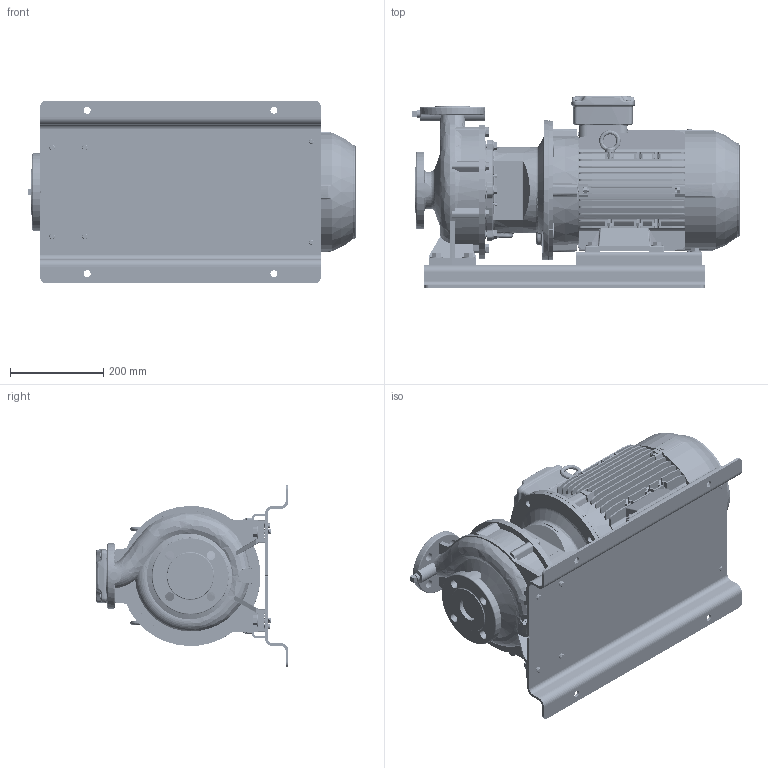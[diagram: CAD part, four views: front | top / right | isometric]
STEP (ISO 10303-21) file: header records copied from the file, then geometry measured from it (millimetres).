
FILE_DESCRIPTION (( 'STEP AP214' ), '1' );
FILE_NAME ('GSD2 32-200_5.5 & 7.5_(132S)_W21_BP.STEP', '2024-03-20T01:22:30', ( '' ), ( '' ), 'SwSTEP 2.0', 'SolidWorks 2019', '' );
FILE_SCHEMA (( 'AUTOMOTIVE_DESIGN' ));
Length unit declared in the file: millimetre
Products named in the file (18): Parametric bolt_SFT-A253B; Parametric bolt and washer_SFT-A299B; Parametric bolt and washer_SFT-A253B; 32-200-132S; Parametric Flat Washer_M10; N3S3 GSDA-336 F1-1832908-00; Parametric Flat Washer_M12; GSD2  32-200_5.5 & 7.5_(132S)_W21_BP; Parametric bolt_SFT-A299B; Parametric bolt_SFT-A257B; 132S ALIE3_W21T_B35; 140_178 x 28 - 271472025
Assembly tree (33 placements, depth 3):
  GSD2  32-200_5.5 & 7.5_(132S)_W21_BP
    32-200-132S
    N3S3 GSDA-336 F1-1832908-00
    140_178 x 28 - 271472025  x2
    Parametric bolt and washer_SFT-A299B
      Parametric bolt_SFT-A299B
      Parametric Flat Washer_M12
    Parametric bolt and washer_SFT-A299B
      Parametric bolt_SFT-A299B
      Parametric Flat Washer_M12
    Parametric bolt and washer_SFT-A299B
      Parametric bolt_SFT-A299B
      Parametric Flat Washer_M12
    Parametric bolt and washer_SFT-A299B
      Parametric bolt_SFT-A299B
      Parametric Flat Washer_M12
    Parametric bolt_SFT-A257B  x2
    Parametric Flat Washer_M10  x2
    Parametric bolt and washer_SFT-A253B
      Parametric bolt_SFT-A253B
      Parametric Flat Washer_M10
    Parametric bolt and washer_SFT-A253B
      Parametric bolt_SFT-A253B
      Parametric Flat Washer_M10
    Parametric bolt and washer_SFT-A253B
      Parametric bolt_SFT-A253B
      Parametric Flat Washer_M10
    Parametric bolt and washer_SFT-A253B
      Parametric bolt_SFT-A253B
      Parametric Flat Washer_M10
    132S ALIE3_W21T_B35
Bounding box: 700.45 x 413 x 390 mm (x, y, z)
Volume: 29705616.6 mm3; surface area: 2591327.4 mm2
Topology: 43 solids, 43 shells, 5036 faces, 13157 edges, 8559 vertices
Faces by surface type: plane 3003, cylinder 1207, torus 301, bspline 256, cone 237, sphere 32
Entity records: 182475 total; most frequent: CARTESIAN_POINT 57489, ORIENTED_EDGE 24078, DIRECTION 21902, EDGE_CURVE 12039, LINE 7990, VECTOR 7990, VERTEX_POINT 7843, AXIS2_PLACEMENT_3D 6956
